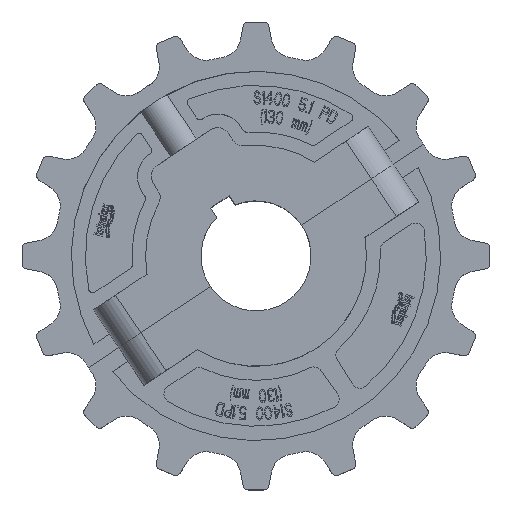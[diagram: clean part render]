
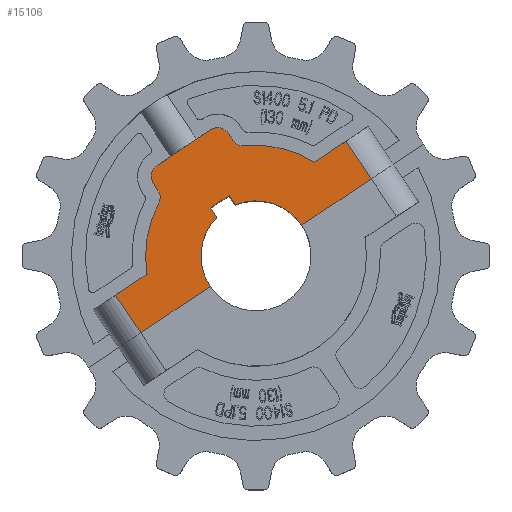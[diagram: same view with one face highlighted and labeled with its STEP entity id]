
A CAD part, top view. The second image highlights one B-rep face of the part: STEP entity #15106.
In plain terms, the highlighted planar face has unit normal (0, 0, 1).
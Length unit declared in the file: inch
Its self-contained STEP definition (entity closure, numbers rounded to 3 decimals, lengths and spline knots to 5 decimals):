
#561=DIRECTION('',(-0.831,-0.556,0.));
#562=VECTOR('',#561,0.25);
#563=CARTESIAN_POINT('',(-0.30573,0.68255,0.99));
#564=LINE('',#563,#562);
#565=DIRECTION('',(0.556,-0.831,0.));
#566=VECTOR('',#565,0.125);
#567=CARTESIAN_POINT('',(-0.5136,0.54366,0.99));
#568=LINE('',#567,#566);
#569=CARTESIAN_POINT('',(0.,0.,0.99));
#570=DIRECTION('',(0.,0.,1.));
#571=DIRECTION('',(-0.711,0.704,0.));
#572=AXIS2_PLACEMENT_3D('',#569,#570,#571);
#574=DIRECTION('',(0.831,0.556,0.));
#575=VECTOR('',#574,0.95);
#576=CARTESIAN_POINT('',(-1.30956,-0.87502,0.99));
#577=LINE('',#576,#575);
#578=DIRECTION('',(-0.556,0.831,0.));
#579=VECTOR('',#578,0.515);
#580=CARTESIAN_POINT('',(-1.30956,-0.87502,0.99));
#581=LINE('',#580,#579);
#582=DIRECTION('',(-0.831,-0.556,0.));
#583=VECTOR('',#582,0.43054);
#584=CARTESIAN_POINT('',(-1.23771,-0.20762,0.99));
#585=LINE('',#584,#583);
#586=CARTESIAN_POINT('',(0.,0.,0.99));
#587=DIRECTION('',(0.,0.,1.));
#588=DIRECTION('',(-0.882,0.471,0.));
#589=AXIS2_PLACEMENT_3D('',#586,#587,#588);
#591=DIRECTION('',(0.556,-0.831,0.));
#592=VECTOR('',#591,0.09);
#593=CARTESIAN_POINT('',(-1.16448,0.82029,0.99));
#594=LINE('',#593,#592);
#595=CARTESIAN_POINT('',(-1.03976,0.90363,0.99));
#596=DIRECTION('',(0.,0.,1.));
#597=DIRECTION('',(-0.556,0.831,0.));
#598=AXIS2_PLACEMENT_3D('',#595,#596,#597);
#600=DIRECTION('',(-0.831,-0.556,0.));
#601=VECTOR('',#600,0.725);
#602=CARTESIAN_POINT('',(-0.52028,1.43114,0.99));
#603=LINE('',#602,#601);
#604=CARTESIAN_POINT('',(-0.43695,1.30642,0.99));
#605=DIRECTION('',(0.,0.,1.));
#606=DIRECTION('',(0.831,0.556,0.));
#607=AXIS2_PLACEMENT_3D('',#604,#605,#606);
#609=DIRECTION('',(-0.556,0.831,0.));
#610=VECTOR('',#609,0.09);
#611=CARTESIAN_POINT('',(-0.26222,1.31492,0.99));
#612=LINE('',#611,#610);
#613=CARTESIAN_POINT('',(0.,0.,0.99));
#614=DIRECTION('',(0.,0.,1.));
#615=DIRECTION('',(0.53,0.848,0.));
#616=AXIS2_PLACEMENT_3D('',#613,#614,#615);
#618=DIRECTION('',(-0.831,-0.556,0.));
#619=VECTOR('',#618,0.43054);
#620=CARTESIAN_POINT('',(1.02345,1.30323,0.99));
#621=LINE('',#620,#619);
#622=DIRECTION('',(0.556,-0.831,0.));
#623=VECTOR('',#622,0.515);
#624=CARTESIAN_POINT('',(1.02345,1.30323,0.99));
#625=LINE('',#624,#623);
#626=DIRECTION('',(0.831,0.556,0.));
#627=VECTOR('',#626,0.95);
#628=CARTESIAN_POINT('',(0.51967,0.34723,0.99));
#629=LINE('',#628,#627);
#630=CARTESIAN_POINT('',(0.,0.,0.99));
#631=DIRECTION('',(0.,0.,1.));
#632=DIRECTION('',(0.831,0.556,0.));
#633=AXIS2_PLACEMENT_3D('',#630,#631,#632);
#635=DIRECTION('',(-0.556,0.831,0.));
#636=VECTOR('',#635,0.125);
#637=CARTESIAN_POINT('',(-0.23628,0.57862,0.99));
#638=LINE('',#637,#636);
#2004=CARTESIAN_POINT('',(-0.1375,1.39826,0.99));
#2005=DIRECTION('',(0.,0.,-1.));
#2006=DIRECTION('',(0.098,-0.995,0.));
#2007=AXIS2_PLACEMENT_3D('',#2004,#2005,#2006);
#2040=CARTESIAN_POINT('',(-1.2392,0.66212,0.99));
#2041=DIRECTION('',(0.,0.,-1.));
#2042=DIRECTION('',(0.831,0.556,0.));
#2043=AXIS2_PLACEMENT_3D('',#2040,#2041,#2042);
#11118=CARTESIAN_POINT('',(-1.1069,0.59144,0.99));
#11120=VERTEX_POINT('',#11118);
#11123=CARTESIAN_POINT('',(-1.11448,0.74546,0.99));
#11124=VERTEX_POINT('',#11123);
#11134=CARTESIAN_POINT('',(-0.26222,1.31492,0.99));
#11136=VERTEX_POINT('',#11134);
#11139=CARTESIAN_POINT('',(-0.12282,1.24898,0.99));
#11140=VERTEX_POINT('',#11139);
#11149=CARTESIAN_POINT('',(-0.31222,1.38975,0.99));
#11151=VERTEX_POINT('',#11149);
#11153=CARTESIAN_POINT('',(-0.52028,1.43114,0.99));
#11154=VERTEX_POINT('',#11153);
#11157=CARTESIAN_POINT('',(-1.1231,1.02835,0.99));
#11159=VERTEX_POINT('',#11157);
#11161=CARTESIAN_POINT('',(-1.16448,0.82029,0.99));
#11162=VERTEX_POINT('',#11161);
#11215=CARTESIAN_POINT('',(-1.23771,-0.20762,0.99));
#11216=VERTEX_POINT('',#11215);
#11219=CARTESIAN_POINT('',(0.66547,1.06404,0.99));
#11220=VERTEX_POINT('',#11219);
#11233=CARTESIAN_POINT('',(-1.59568,-0.44682,0.99));
#11234=VERTEX_POINT('',#11233);
#11235=CARTESIAN_POINT('',(1.02345,1.30323,0.99));
#11236=VERTEX_POINT('',#11235);
#11317=CARTESIAN_POINT('',(-1.30956,-0.87502,0.99));
#11318=VERTEX_POINT('',#11317);
#11319=CARTESIAN_POINT('',(1.30956,0.87502,0.99));
#11320=VERTEX_POINT('',#11319);
#14543=CARTESIAN_POINT('',(-0.30573,0.68255,0.99));
#14544=CARTESIAN_POINT('',(-0.5136,0.54366,0.99));
#14545=VERTEX_POINT('',#14543);
#14546=VERTEX_POINT('',#14544);
#14547=CARTESIAN_POINT('',(-0.44415,0.43972,0.99));
#14548=VERTEX_POINT('',#14547);
#14549=CARTESIAN_POINT('',(-0.51967,-0.34723,0.99));
#14550=VERTEX_POINT('',#14549);
#14551=CARTESIAN_POINT('',(0.51967,0.34723,0.99));
#14552=CARTESIAN_POINT('',(-0.23628,0.57862,0.99));
#14553=VERTEX_POINT('',#14551);
#14554=VERTEX_POINT('',#14552);
#15067=CARTESIAN_POINT('',(0.,0.,0.99));
#15068=DIRECTION('',(0.,0.,1.));
#15069=DIRECTION('',(1.,0.,0.));
#15070=AXIS2_PLACEMENT_3D('',#15067,#15068,#15069);
#15071=PLANE('',#15070);
#15072=ORIENTED_EDGE('',*,*,#15013,.T.);
#15073=ORIENTED_EDGE('',*,*,#15034,.T.);
#15074=ORIENTED_EDGE('',*,*,#15047,.T.);
#15075=ORIENTED_EDGE('',*,*,#14748,.F.);
#15077=ORIENTED_EDGE('',*,*,#15076,.T.);
#15078=ORIENTED_EDGE('',*,*,#14853,.F.);
#15080=ORIENTED_EDGE('',*,*,#15079,.F.);
#15082=ORIENTED_EDGE('',*,*,#15081,.F.);
#15084=ORIENTED_EDGE('',*,*,#15083,.F.);
#15086=ORIENTED_EDGE('',*,*,#15085,.F.);
#15088=ORIENTED_EDGE('',*,*,#15087,.F.);
#15090=ORIENTED_EDGE('',*,*,#15089,.F.);
#15092=ORIENTED_EDGE('',*,*,#15091,.F.);
#15094=ORIENTED_EDGE('',*,*,#15093,.F.);
#15096=ORIENTED_EDGE('',*,*,#15095,.F.);
#15097=ORIENTED_EDGE('',*,*,#14899,.F.);
#15099=ORIENTED_EDGE('',*,*,#15098,.T.);
#15100=ORIENTED_EDGE('',*,*,#14772,.F.);
#15101=ORIENTED_EDGE('',*,*,#15061,.T.);
#15103=ORIENTED_EDGE('',*,*,#15102,.T.);
#15104=EDGE_LOOP('',(#15072,#15073,#15074,#15075,#15077,#15078,#15080,#15082,
#15084,#15086,#15088,#15090,#15092,#15094,#15096,#15097,#15099,#15100,#15101,
#15103));
#15105=FACE_OUTER_BOUND('',#15104,.F.);
#15106=ADVANCED_FACE('',(#15105),#15071,.T.);
#573=CIRCLE('',#572,0.625);
#590=CIRCLE('',#589,1.255);
#599=CIRCLE('',#598,0.15);
#608=CIRCLE('',#607,0.15);
#617=CIRCLE('',#616,1.255);
#634=CIRCLE('',#633,0.625);
#2008=CIRCLE('',#2007,0.15);
#2044=CIRCLE('',#2043,0.15);
#14748=EDGE_CURVE('',#11318,#14550,#577,.T.);
#14772=EDGE_CURVE('',#14553,#11320,#629,.T.);
#14853=EDGE_CURVE('',#11216,#11234,#585,.T.);
#14899=EDGE_CURVE('',#11236,#11220,#621,.T.);
#15013=EDGE_CURVE('',#14545,#14546,#564,.T.);
#15034=EDGE_CURVE('',#14546,#14548,#568,.T.);
#15047=EDGE_CURVE('',#14548,#14550,#573,.T.);
#15061=EDGE_CURVE('',#14553,#14554,#634,.T.);
#15076=EDGE_CURVE('',#11318,#11234,#581,.T.);
#15079=EDGE_CURVE('',#11120,#11216,#590,.T.);
#15081=EDGE_CURVE('',#11124,#11120,#2044,.T.);
#15083=EDGE_CURVE('',#11162,#11124,#594,.T.);
#15085=EDGE_CURVE('',#11159,#11162,#599,.T.);
#15087=EDGE_CURVE('',#11154,#11159,#603,.T.);
#15089=EDGE_CURVE('',#11151,#11154,#608,.T.);
#15091=EDGE_CURVE('',#11136,#11151,#612,.T.);
#15093=EDGE_CURVE('',#11140,#11136,#2008,.T.);
#15095=EDGE_CURVE('',#11220,#11140,#617,.T.);
#15098=EDGE_CURVE('',#11236,#11320,#625,.T.);
#15102=EDGE_CURVE('',#14554,#14545,#638,.T.);
